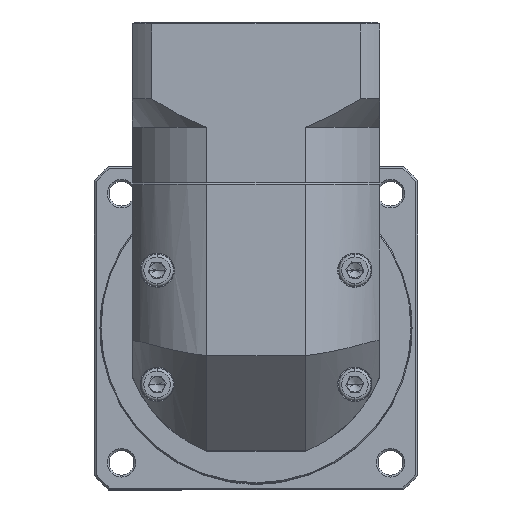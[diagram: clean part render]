
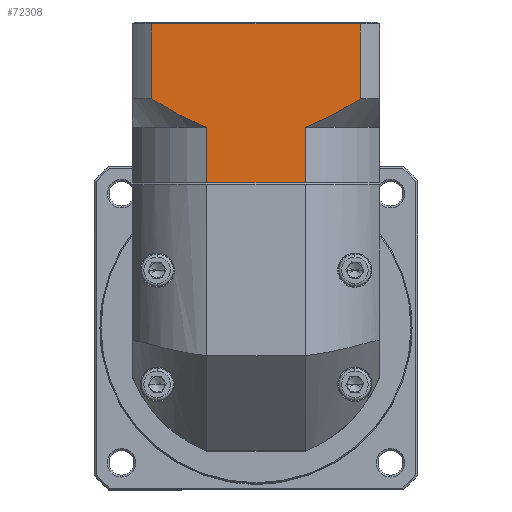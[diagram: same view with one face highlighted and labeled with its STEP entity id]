
A CAD part, top view. The second image highlights one B-rep face of the part: STEP entity #72308.
In plain terms, the highlighted planar face has unit normal (0, 0, 1).
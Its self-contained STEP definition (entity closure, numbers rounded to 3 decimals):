
#1762 = CARTESIAN_POINT ( 'NONE',  ( -64.937, 94.515, 46.022 ) ) ;
#4326 = DIRECTION ( 'NONE',  ( 1., 0., 0. ) ) ;
#5195 = EDGE_CURVE ( 'NONE', #96052, #90274, #83398, .T. ) ;
#9463 = ORIENTED_EDGE ( 'NONE', *, *, #91244, .F. ) ;
#11429 = CARTESIAN_POINT ( 'NONE',  ( -61.771, 95.805, 46.022 ) ) ;
#12330 = CARTESIAN_POINT ( 'NONE',  ( -52.81, 100.553, 46.022 ) ) ;
#14677 = LINE ( 'NONE', #129405, #119567 ) ;
#17124 = LINE ( 'NONE', #132531, #125278 ) ;
#19183 = AXIS2_PLACEMENT_3D ( 'NONE', #42559, #43014, #63223 ) ;
#19430 = VERTEX_POINT ( 'NONE', #129153 ) ;
#20999 = CARTESIAN_POINT ( 'NONE',  ( -55.124, 99.165, 46.022 ) ) ;
#26209 = ORIENTED_EDGE ( 'NONE', *, *, #124533, .T. ) ;
#29141 = ORIENTED_EDGE ( 'NONE', *, *, #135626, .T. ) ;
#30218 = PLANE ( 'NONE',  #19183 ) ;
#31591 = CARTESIAN_POINT ( 'NONE',  ( -90.918, 94.515, 46.022 ) ) ;
#33427 = CARTESIAN_POINT ( 'NONE',  ( -64.295, 94.753, 46.022 ) ) ;
#34604 = VECTOR ( 'NONE', #64924, 1000. ) ;
#35813 = CARTESIAN_POINT ( 'NONE',  ( -90.918, 94.515, 46.022 ) ) ;
#37315 = DIRECTION ( 'NONE',  ( 0., -1., 0. ) ) ;
#37479 = ORIENTED_EDGE ( 'NONE', *, *, #129412, .T. ) ;
#42559 = CARTESIAN_POINT ( 'NONE',  ( -110.428, 122.215, 46.022 ) ) ;
#43014 = DIRECTION ( 'NONE',  ( 0., 0., -1. ) ) ;
#47152 = EDGE_CURVE ( 'NONE', #108624, #90274, #134486, .T. ) ;
#51332 = CARTESIAN_POINT ( 'NONE',  ( -95.908, 96.601, 46.022 ) ) ;
#53141 = CARTESIAN_POINT ( 'NONE',  ( -99.504, 98.511, 46.022 ) ) ;
#53154 = CARTESIAN_POINT ( 'NONE',  ( -58.705, 97.26, 46.022 ) ) ;
#53375 = ORIENTED_EDGE ( 'NONE', *, *, #86478, .F. ) ;
#53462 = CARTESIAN_POINT ( 'NONE',  ( -110.428, 121.715, 46.022 ) ) ;
#54257 = LINE ( 'NONE', #65724, #111668 ) ;
#54393 = VECTOR ( 'NONE', #107801, 1000. ) ;
#59628 = CARTESIAN_POINT ( 'NONE',  ( -105.314, 121.715, 46.022 ) ) ;
#60037 = CARTESIAN_POINT ( 'NONE',  ( -90.918, 94.515, 46.022 ) ) ;
#62821 = CARTESIAN_POINT ( 'NONE',  ( -62.395, 95.531, 46.022 ) ) ;
#63223 = DIRECTION ( 'NONE',  ( 0., 1., 0. ) ) ;
#64924 = DIRECTION ( 'NONE',  ( -1., 0., 0. ) ) ;
#64954 = CARTESIAN_POINT ( 'NONE',  ( -50.541, 121.715, 46.022 ) ) ;
#65724 = CARTESIAN_POINT ( 'NONE',  ( -105.314, 94.515, 46.022 ) ) ;
#67827 = ORIENTED_EDGE ( 'NONE', *, *, #47152, .T. ) ;
#70914 = VERTEX_POINT ( 'NONE', #59628 ) ;
#72308 = ADVANCED_FACE ( 'NONE', ( #89815 ), #30218, .F. ) ;
#72517 = CARTESIAN_POINT ( 'NONE',  ( -50.541, 102.015, 46.022 ) ) ;
#72555 = ORIENTED_EDGE ( 'NONE', *, *, #93272, .F. ) ;
#73271 = CARTESIAN_POINT ( 'NONE',  ( -100.689, 99.181, 46.022 ) ) ;
#75382 = DIRECTION ( 'NONE',  ( 0., 1., 0. ) ) ;
#78942 = VERTEX_POINT ( 'NONE', #88638 ) ;
#80102 = VECTOR ( 'NONE', #82176, 1000. ) ;
#82176 = DIRECTION ( 'NONE',  ( 0., -1., 0. ) ) ;
#83398 = LINE ( 'NONE', #125214, #80102 ) ;
#86180 = CARTESIAN_POINT ( 'NONE',  ( -64.937, 94.515, 46.022 ) ) ;
#86478 = EDGE_CURVE ( 'NONE', #97938, #101365, #103570, .T. ) ;
#88638 = CARTESIAN_POINT ( 'NONE',  ( -105.314, 102.015, 46.022 ) ) ;
#89815 = FACE_OUTER_BOUND ( 'NONE', #94117, .T. ) ;
#90274 = VERTEX_POINT ( 'NONE', #72517 ) ;
#91244 = EDGE_CURVE ( 'NONE', #78942, #70914, #54257, .T. ) ;
#93272 = EDGE_CURVE ( 'NONE', #108624, #19430, #17124, .T. ) ;
#94117 = EDGE_LOOP ( 'NONE', ( #119224, #26209, #9463, #37479, #53375, #29141, #72555, #67827 ) ) ;
#94817 = B_SPLINE_CURVE_WITH_KNOTS ( 'NONE', 3,
 ( #115848, #124577, #125460, #73271, #53141, #51332, #125041, #31591 ),
 .UNSPECIFIED., .F., .F.,
 ( 4, 2, 2, 4 ),
 ( 0.058, 0.062, 0.066, 0.074 ),
 .UNSPECIFIED. ) ;
#95222 = CARTESIAN_POINT ( 'NONE',  ( -63.656, 95.005, 46.022 ) ) ;
#96052 = VERTEX_POINT ( 'NONE', #64954 ) ;
#97938 = VERTEX_POINT ( 'NONE', #104557 ) ;
#101365 = VERTEX_POINT ( 'NONE', #60037 ) ;
#103570 = LINE ( 'NONE', #35813, #54393 ) ;
#104557 = CARTESIAN_POINT ( 'NONE',  ( -90.918, 80.015, 46.022 ) ) ;
#106791 = LINE ( 'NONE', #53462, #34604 ) ;
#107801 = DIRECTION ( 'NONE',  ( 0., 1., 0. ) ) ;
#108624 = VERTEX_POINT ( 'NONE', #86180 ) ;
#111668 = VECTOR ( 'NONE', #75382, 1000. ) ;
#115848 = CARTESIAN_POINT ( 'NONE',  ( -105.314, 102.015, 46.022 ) ) ;
#119224 = ORIENTED_EDGE ( 'NONE', *, *, #5195, .F. ) ;
#119567 = VECTOR ( 'NONE', #4326, 1000. ) ;
#124533 = EDGE_CURVE ( 'NONE', #96052, #70914, #106791, .T. ) ;
#124577 = CARTESIAN_POINT ( 'NONE',  ( -104.175, 101.281, 46.022 ) ) ;
#125041 = CARTESIAN_POINT ( 'NONE',  ( -93.456, 95.457, 46.022 ) ) ;
#125214 = CARTESIAN_POINT ( 'NONE',  ( -50.541, 94.515, 46.022 ) ) ;
#125278 = VECTOR ( 'NONE', #37315, 1000. ) ;
#125460 = CARTESIAN_POINT ( 'NONE',  ( -103.024, 100.566, 46.022 ) ) ;
#126872 = CARTESIAN_POINT ( 'NONE',  ( -59.917, 96.655, 46.022 ) ) ;
#129153 = CARTESIAN_POINT ( 'NONE',  ( -64.937, 80.015, 46.022 ) ) ;
#129405 = CARTESIAN_POINT ( 'NONE',  ( -110.428, 80.015, 46.022 ) ) ;
#129412 = EDGE_CURVE ( 'NONE', #78942, #101365, #94817, .T. ) ;
#132531 = CARTESIAN_POINT ( 'NONE',  ( -64.937, 94.515, 46.022 ) ) ;
#134486 = B_SPLINE_CURVE_WITH_KNOTS ( 'NONE', 3,
 ( #1762, #33427, #95222, #62821, #11429, #126872, #53154, #20999, #12330, #136035 ),
 .UNSPECIFIED., .F., .F.,
 ( 4, 2, 2, 2, 4 ),
 ( 0.101, 0.103, 0.105, 0.109, 0.117 ),
 .UNSPECIFIED. ) ;
#135626 = EDGE_CURVE ( 'NONE', #97938, #19430, #14677, .T. ) ;
#136035 = CARTESIAN_POINT ( 'NONE',  ( -50.541, 102.015, 46.022 ) ) ;
